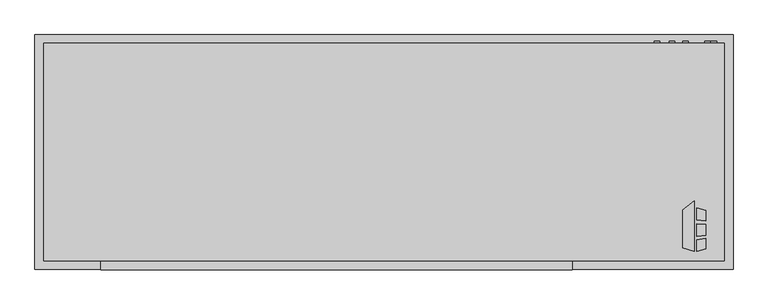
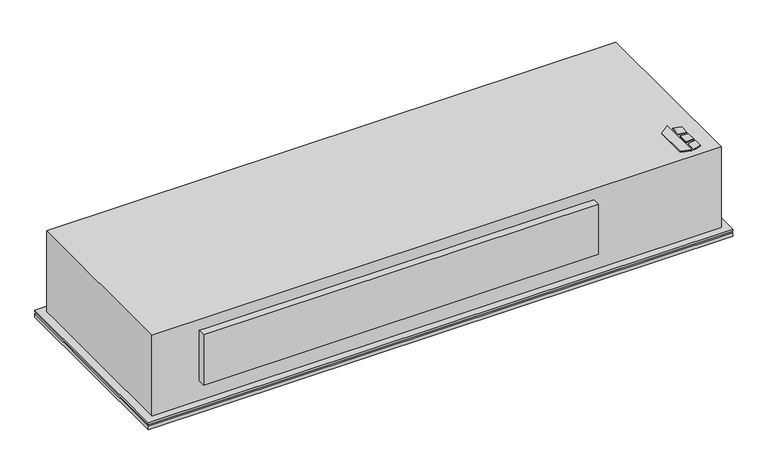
"""IFC4 building model written with IfcOpenShell, lengths in millimetres: proxy geometry, Horizontal_Telescoping_Fan_Coil_Unit_-_CBY_-_IEC_-_4-Pipe_RH_2022 : Size 10 - 277v/60Hz/1Ph - 4/1 Coil."""

from ifc_helpers import new_model, si_unit, point, frame, frame_2d, origin, origin_with_axes, place, context, project, spatial, polyline, circle_curve, trimmed, segment, composite_curve, outline, extrude, source, transform, mapped, element, save


def mechanical_equipment_479caae4(model_context):
    return source(origin(), model_context, "Body", "SweptSolid", [
        extrude(outline(polyline([(988.7019761, -401.0078476), (1021.2602728, -375.5705184), (1021.2602728, -517.525), (988.7019761, -507.3054201), (988.7019761, -401.0078476)])), origin_with_axes(), (0.0, 0.0, 1.0), 3.175),
        extrude(outline(polyline([(1028.0186058, -428.879852), (1028.0186058, -394.3999379), (1054.1, -402.5865115), (1054.1, -432.0822446), (1028.0186058, -428.879852)])), origin_with_axes(), (0.0, 0.0, 1.0), 3.175),
        extrude(outline(polyline([(1054.1, -510.5365115), (1028.0186058, -517.525), (1028.0186058, -484.3036996), (1054.1, -480.7618564), (1054.1, -510.5365115)])), origin_with_axes(), (0.0, 0.0, 1.0), 3.175),
        extrude(outline(polyline([(1054.1, -441.1638277), (1054.1, -472.413983), (1028.0186058, -475.155248), (1028.0186058, -439.2975378), (1054.1, -441.1638277)])), origin_with_axes(), (0.0, 0.0, 1.0), 3.175),
        extrude(outline(composite_curve([segment(trimmed(circle_curve(frame_2d((-60.325, 917.575)), 7.9375), [point((-60.325, 925.5125))], [point((-60.325, 909.6375))], False, "CARTESIAN"), True, "CONTINUOUS"), segment(trimmed(circle_curve(frame_2d((-60.325, 917.575)), 7.9375), [point((-60.325, 909.6375))], [point((-60.325, 925.5125))], False, "CARTESIAN"), True, "CONTINUOUS")], self_intersect=False)), frame((0.0, 66.675, 0.0), z_axis=(0.0, 1.0, 0.0), x_axis=(0.0, 0.0, 1.0)), (0.0, 0.0, 1.0), 6.35),
        extrude(outline(composite_curve([segment(trimmed(circle_curve(frame_2d((-95.25, 958.85)), 7.9375), [point((-95.25, 966.7875))], [point((-95.25, 950.9125))], False, "CARTESIAN"), True, "CONTINUOUS"), segment(trimmed(circle_curve(frame_2d((-95.25, 958.85)), 7.9375), [point((-95.25, 950.9125))], [point((-95.25, 966.7875))], False, "CARTESIAN"), True, "CONTINUOUS")], self_intersect=False)), frame((0.0, 66.675, 0.0), z_axis=(0.0, 1.0, 0.0), x_axis=(0.0, 0.0, 1.0)), (0.0, 0.0, 1.0), 6.35),
        extrude(outline(composite_curve([segment(trimmed(circle_curve(frame_2d((-44.45, 996.95)), 7.9375), [point((-44.45, 1004.8875))], [point((-44.45, 989.0125))], False, "CARTESIAN"), True, "CONTINUOUS"), segment(trimmed(circle_curve(frame_2d((-44.45, 996.95)), 7.9375), [point((-44.45, 989.0125))], [point((-44.45, 1004.8875))], False, "CARTESIAN"), True, "CONTINUOUS")], self_intersect=False)), frame((0.0, 66.675, 0.0), z_axis=(0.0, 1.0, 0.0), x_axis=(0.0, 0.0, 1.0)), (0.0, 0.0, 1.0), 6.35),
        extrude(outline(composite_curve([segment(trimmed(circle_curve(frame_2d((-85.725, 1076.325)), 7.9375), [point((-85.725, 1084.2625))], [point((-85.725, 1068.3875))], False, "CARTESIAN"), True, "CONTINUOUS"), segment(trimmed(circle_curve(frame_2d((-85.725, 1076.325)), 7.9375), [point((-85.725, 1068.3875))], [point((-85.725, 1084.2625))], False, "CARTESIAN"), True, "CONTINUOUS")], self_intersect=False)), frame((0.0, 66.675, 0.0), z_axis=(0.0, 1.0, 0.0), x_axis=(0.0, 0.0, 1.0)), (0.0, 0.0, 1.0), 6.35),
        extrude(outline(composite_curve([segment(trimmed(circle_curve(frame_2d((-260.35, 1060.45)), 9.525), [point((-260.35, 1069.975))], [point((-260.35, 1050.925))], False, "CARTESIAN"), True, "CONTINUOUS"), segment(trimmed(circle_curve(frame_2d((-260.35, 1060.45)), 9.525), [point((-260.35, 1050.925))], [point((-260.35, 1069.975))], False, "CARTESIAN"), True, "CONTINUOUS")], self_intersect=False)), frame((0.0, 66.675, 0.0), z_axis=(0.0, 1.0, 0.0), x_axis=(0.0, 0.0, 1.0)), (0.0, 0.0, 1.0), 6.35),
        extrude(outline(polyline([(1130.3, 90.4875), (1130.3, -566.7375), (-825.5, -566.7375), (-825.5, 90.4875), (1130.3, 90.4875)])), frame((0.0, 0.0, -311.15), z_axis=(0.0, 0.0, 1.0), x_axis=(1.0, 0.0, 0.0)), (0.0, 0.0, 1.0), 12.7),
        extrude(outline(polyline([(1130.3, 90.4875), (1130.3, -566.7375), (-825.5, -566.7375), (-825.5, 90.4875), (1130.3, 90.4875)])), frame((0.0, 0.0, -292.1), z_axis=(0.0, 0.0, 1.0), x_axis=(1.0, 0.0, 0.0)), (0.0, 0.0, 1.0), 6.35),
        extrude(outline(polyline([(1104.9, 65.0875), (1104.9, -541.3375), (-800.1, -541.3375), (-800.1, 65.0875), (1104.9, 65.0875)])), frame((0.0, 0.0, -298.45), z_axis=(0.0, 0.0, 1.0), x_axis=(1.0, 0.0, 0.0)), (0.0, 0.0, 1.0), 6.35),
        extrude(outline(polyline([(679.45, -568.325), (-641.35, -568.325), (-641.35, -542.925), (679.45, -542.925), (679.45, -568.325)])), frame((0.0, 0.0, -215.9), z_axis=(0.0, 0.0, 1.0), x_axis=(1.0, 0.0, 0.0)), (0.0, 0.0, 1.0), 177.8),
        extrude(outline(polyline([(-800.1, 66.675), (1104.9, 66.675), (1104.9, -542.925), (-800.1, -542.925), (-800.1, 66.675)])), frame((0.0, 0.0, -285.75), z_axis=(0.0, 0.0, 1.0), x_axis=(1.0, 0.0, 0.0)), (0.0, 0.0, 1.0), 285.75),
        extrude(outline(polyline([(939.8, -9.525), (939.8, -263.525), (-635.0, -263.525), (-635.0, -9.525), (939.8, -9.525)])), frame((0.0, 0.0, -317.5), z_axis=(0.0, 0.0, 1.0), x_axis=(1.0, 0.0, 0.0)), (0.0, 0.0, 1.0), 6.35),
    ])


if __name__ == "__main__":
    model = new_model("IFC4")
    model_context = context("Model", 3, world=origin())
    ifc_project = project(units=[si_unit("LENGTHUNIT", "METRE", prefix="MILLI")], contexts=[model_context])
    site = spatial("IfcSite", under=ifc_project)
    building = spatial("IfcBuilding", under=site)
    placement = place(None, origin())
    mechanical_equipment_shape = mechanical_equipment_479caae4(model_context)
    element("IfcBuildingElementProxy", 1, Name="Horizontal_Telescoping_Fan_Coil_Unit_-_CBY_-_IEC_-_4-Pipe_RH_2022 : Size 10 - 277v/60Hz/1Ph - 4/1 Coil", ObjectType="Horizontal_Telescoping_Fan_Coil_Unit_-_CBY_-_IEC_-_4-Pipe_RH_2022 : Size 10 - 277v/60Hz/1Ph - 4/1 Coil", at=placement, inside=building, context=model_context, shape_type="MappedRepresentation", body=[
        mapped(mechanical_equipment_shape, transform((0.0, 0.0, 0.0), x_axis=(1.0, 0.0, 0.0), y_axis=(0.0, 1.0, 0.0), z_axis=(0.0, 0.0, 1.0))),
    ])
    save(model, "model.ifc")
